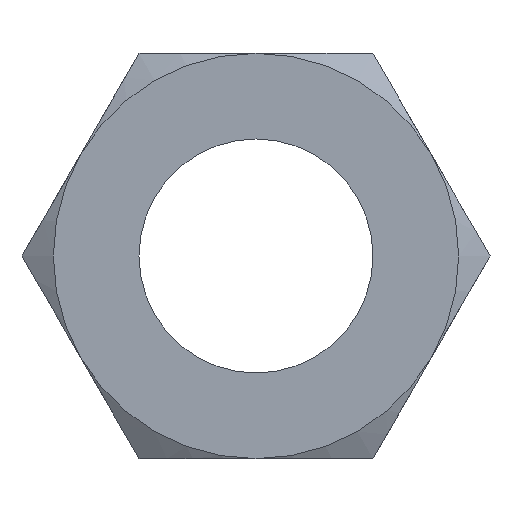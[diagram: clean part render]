
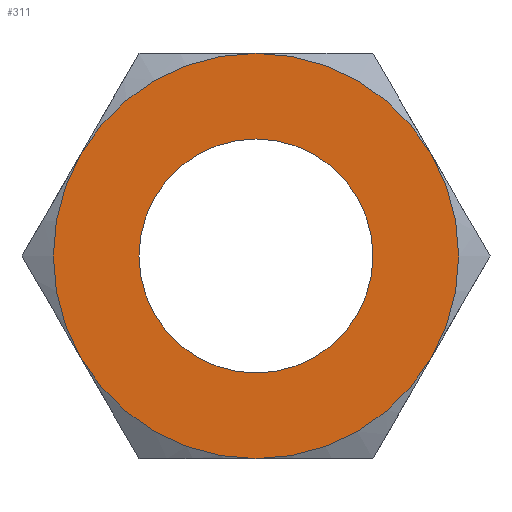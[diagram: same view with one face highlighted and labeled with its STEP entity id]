
A CAD part, left-side view. The second image highlights one B-rep face of the part: STEP entity #311.
In plain terms, the highlighted planar face has unit normal (-1, 0, 0).
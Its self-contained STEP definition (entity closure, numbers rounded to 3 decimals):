
#15=FACE_BOUND('',#78,.T.);
#35=PLANE('',#360);
#56=FACE_OUTER_BOUND('',#77,.T.);
#77=EDGE_LOOP('',(#251,#252,#253,#254,#255,#256));
#78=EDGE_LOOP('',(#257));
#84=CIRCLE('',#331,43.301);
#85=CIRCLE('',#333,43.301);
#86=CIRCLE('',#335,43.301);
#87=CIRCLE('',#337,43.301);
#88=CIRCLE('',#339,43.301);
#89=CIRCLE('',#341,43.301);
#96=CIRCLE('',#358,25.);
#123=VERTEX_POINT('',#447);
#124=VERTEX_POINT('',#451);
#126=VERTEX_POINT('',#458);
#128=VERTEX_POINT('',#468);
#130=VERTEX_POINT('',#481);
#132=VERTEX_POINT('',#491);
#146=VERTEX_POINT('',#573);
#149=EDGE_CURVE('',#123,#124,#84,.T.);
#152=EDGE_CURVE('',#126,#123,#85,.T.);
#155=EDGE_CURVE('',#128,#126,#86,.T.);
#159=EDGE_CURVE('',#130,#128,#87,.T.);
#162=EDGE_CURVE('',#132,#130,#88,.T.);
#165=EDGE_CURVE('',#124,#132,#89,.T.);
#188=EDGE_CURVE('',#146,#146,#96,.T.);
#251=ORIENTED_EDGE('',*,*,#149,.F.);
#252=ORIENTED_EDGE('',*,*,#152,.F.);
#253=ORIENTED_EDGE('',*,*,#155,.F.);
#254=ORIENTED_EDGE('',*,*,#159,.F.);
#255=ORIENTED_EDGE('',*,*,#162,.F.);
#256=ORIENTED_EDGE('',*,*,#165,.F.);
#257=ORIENTED_EDGE('',*,*,#188,.T.);
#311=ADVANCED_FACE('',(#56,#15),#35,.T.);
#331=AXIS2_PLACEMENT_3D('',#452,#369,#370);
#333=AXIS2_PLACEMENT_3D('',#462,#373,#374);
#335=AXIS2_PLACEMENT_3D('',#472,#377,#378);
#337=AXIS2_PLACEMENT_3D('',#485,#381,#382);
#339=AXIS2_PLACEMENT_3D('',#495,#385,#386);
#341=AXIS2_PLACEMENT_3D('',#504,#389,#390);
#358=AXIS2_PLACEMENT_3D('',#574,#427,#428);
#360=AXIS2_PLACEMENT_3D('',#578,#432,#433);
#369=DIRECTION('center_axis',(1.,0.,0.));
#370=DIRECTION('ref_axis',(0.,1.,0.));
#373=DIRECTION('center_axis',(1.,0.,0.));
#374=DIRECTION('ref_axis',(0.,1.,0.));
#377=DIRECTION('center_axis',(1.,0.,0.));
#378=DIRECTION('ref_axis',(0.,1.,0.));
#381=DIRECTION('center_axis',(1.,0.,0.));
#382=DIRECTION('ref_axis',(0.,1.,0.));
#385=DIRECTION('center_axis',(1.,0.,0.));
#386=DIRECTION('ref_axis',(0.,1.,0.));
#389=DIRECTION('center_axis',(1.,0.,0.));
#390=DIRECTION('ref_axis',(0.,1.,0.));
#427=DIRECTION('center_axis',(1.,0.,0.));
#428=DIRECTION('ref_axis',(0.,0.,-1.));
#432=DIRECTION('center_axis',(-1.,0.,0.));
#433=DIRECTION('ref_axis',(0.,0.,1.));
#447=CARTESIAN_POINT('',(-25.,-37.5,21.651));
#451=CARTESIAN_POINT('',(-25.,-37.5,-21.651));
#452=CARTESIAN_POINT('Origin',(-25.,0.,0.));
#458=CARTESIAN_POINT('',(-25.,0.,43.301));
#462=CARTESIAN_POINT('Origin',(-25.,0.,0.));
#468=CARTESIAN_POINT('',(-25.,37.5,21.651));
#472=CARTESIAN_POINT('Origin',(-25.,0.,0.));
#481=CARTESIAN_POINT('',(-25.,37.5,-21.651));
#485=CARTESIAN_POINT('Origin',(-25.,0.,0.));
#491=CARTESIAN_POINT('',(-25.,0.,-43.301));
#495=CARTESIAN_POINT('Origin',(-25.,0.,0.));
#504=CARTESIAN_POINT('Origin',(-25.,0.,0.));
#573=CARTESIAN_POINT('',(-25.,0.,25.));
#574=CARTESIAN_POINT('Origin',(-25.,0.,0.));
#578=CARTESIAN_POINT('Origin',(-25.,0.,0.));
